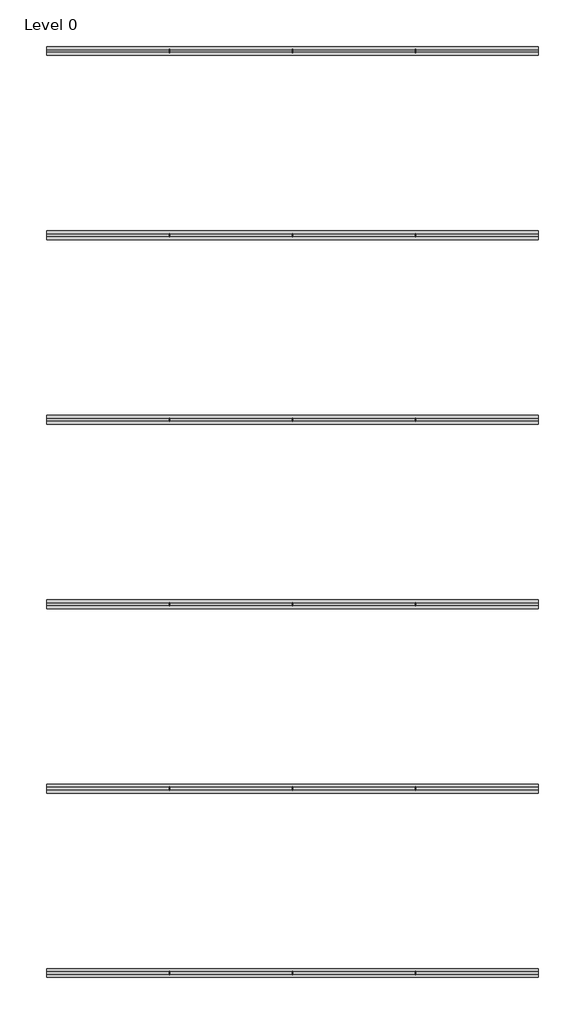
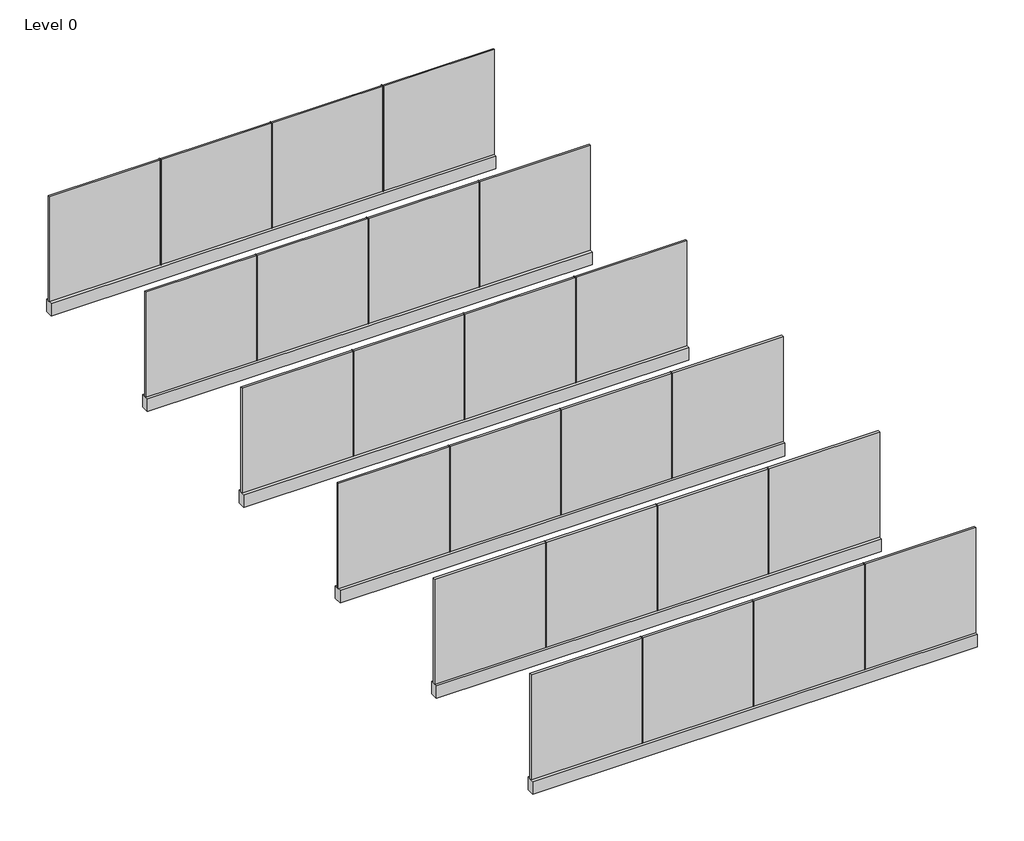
# One storey: 6 railings.
"""IFC4 building model written with IfcOpenShell, lengths in millimetres."""

from ifc_helpers import new_model, si_unit, frame, origin, origin_with_axes, place, context, project, spatial, polyline, outline, extrude, element, save

model = new_model("IFC4")

# Units and contexts
model_context = context("Model", 3, world=origin())
ifc_project = project(units=[si_unit("LENGTHUNIT", "METRE", prefix="MILLI")], contexts=[model_context])

# Site, building, storey
site = spatial("IfcSite", under=ifc_project)
building = spatial("IfcBuilding", under=site)
storey = spatial("IfcBuildingStorey", under=building, Name="Level 0", Elevation=0.0)

# Railings
placement = place(None, origin())
element("IfcRailing", 1, ObjectType="NBS_PureVistaLtd_BalustradeAndGuardingSystem_PosiglazeBaseDrilledBalustrade_12mmglass", at=placement, inside=storey, context=model_context, shape_type="SweptSolid", body=[
    extrude(outline(polyline([(-2000.0, 0.0), (-2000.0, 12.0), (2000.0, 12.0), (2000.0, 0.0), (-2000.0, 0.0)])), frame((0.0, 0.0, 119.5), z_axis=(0.0, 0.0, 1.0), x_axis=(1.0, 0.0, 0.0)), (0.0, 0.0, 1.0), 1000.0),
    extrude(outline(polyline([(-2000.0, -30.0), (-2000.0, 42.0), (2000.0, 42.0), (2000.0, -30.0), (-2000.0, -30.0)])), origin_with_axes(), (0.0, 0.0, 1.0), 119.5),
    extrude(outline(polyline([(998.0, 19.0), (1002.0, 19.0), (1002.0, -7.0), (998.0, -7.0), (998.0, 19.0)])), frame((0.0, 0.0, 119.5), z_axis=(0.0, 0.0, 1.0), x_axis=(1.0, 0.0, 0.0)), (0.0, 0.0, 1.0), 1001.0),
    extrude(outline(polyline([(-2.0, 19.0), (2.0, 19.0), (2.0, -7.0), (-2.0, -7.0), (-2.0, 19.0)])), frame((0.0, 0.0, 119.5), z_axis=(0.0, 0.0, 1.0), x_axis=(1.0, 0.0, 0.0)), (0.0, 0.0, 1.0), 1001.0),
    extrude(outline(polyline([(-1002.0, 19.0), (-998.0, 19.0), (-998.0, -7.0), (-1002.0, -7.0), (-1002.0, 19.0)])), frame((0.0, 0.0, 119.5), z_axis=(0.0, 0.0, 1.0), x_axis=(1.0, 0.0, 0.0)), (0.0, 0.0, 1.0), 1001.0),
])
element("IfcRailing", 2, ObjectType="NBS_PureVistaLtd_BalustradeAndGuardingSystem_PosiglazeBaseDrilledBalustrade_15mmglass", at=placement, inside=storey, context=model_context, shape_type="SweptSolid", body=[
    extrude(outline(polyline([(-2000.0, -1501.5), (-2000.0, -1486.5), (2000.0, -1486.5), (2000.0, -1501.5), (-2000.0, -1501.5)])), frame((0.0, 0.0, 119.5), z_axis=(0.0, 0.0, 1.0), x_axis=(1.0, 0.0, 0.0)), (0.0, 0.0, 1.0), 1000.0),
    extrude(outline(polyline([(-2000.0, -1530.0), (-2000.0, -1458.0), (2000.0, -1458.0), (2000.0, -1530.0), (-2000.0, -1530.0)])), origin_with_axes(), (0.0, 0.0, 1.0), 119.5),
    extrude(outline(polyline([(998.0, -1481.0), (1002.0, -1481.0), (1002.0, -1507.0), (998.0, -1507.0), (998.0, -1481.0)])), frame((0.0, 0.0, 119.5), z_axis=(0.0, 0.0, 1.0), x_axis=(1.0, 0.0, 0.0)), (0.0, 0.0, 1.0), 1001.0),
    extrude(outline(polyline([(-2.0, -1481.0), (2.0, -1481.0), (2.0, -1507.0), (-2.0, -1507.0), (-2.0, -1481.0)])), frame((0.0, 0.0, 119.5), z_axis=(0.0, 0.0, 1.0), x_axis=(1.0, 0.0, 0.0)), (0.0, 0.0, 1.0), 1001.0),
    extrude(outline(polyline([(-1002.0, -1481.0), (-998.0, -1481.0), (-998.0, -1507.0), (-1002.0, -1507.0), (-1002.0, -1481.0)])), frame((0.0, 0.0, 119.5), z_axis=(0.0, 0.0, 1.0), x_axis=(1.0, 0.0, 0.0)), (0.0, 0.0, 1.0), 1001.0),
])
element("IfcRailing", 3, ObjectType="NBS_PureVistaLtd_BalustradeAndGuardingSystem_PosiglazeBaseDrilledBalustrade_17-5mmglass", at=placement, inside=storey, context=model_context, shape_type="SweptSolid", body=[
    extrude(outline(polyline([(-2000.0, -3002.75), (-2000.0, -2985.25), (2000.0, -2985.25), (2000.0, -3002.75), (-2000.0, -3002.75)])), frame((0.0, 0.0, 119.5), z_axis=(0.0, 0.0, 1.0), x_axis=(1.0, 0.0, 0.0)), (0.0, 0.0, 1.0), 1000.0),
    extrude(outline(polyline([(-2000.0, -3030.0), (-2000.0, -2958.0), (2000.0, -2958.0), (2000.0, -3030.0), (-2000.0, -3030.0)])), origin_with_axes(), (0.0, 0.0, 1.0), 119.5),
    extrude(outline(polyline([(998.0, -2981.0), (1002.0, -2981.0), (1002.0, -3007.0), (998.0, -3007.0), (998.0, -2981.0)])), frame((0.0, 0.0, 119.5), z_axis=(0.0, 0.0, 1.0), x_axis=(1.0, 0.0, 0.0)), (0.0, 0.0, 1.0), 1001.0),
    extrude(outline(polyline([(-2.0, -2981.0), (2.0, -2981.0), (2.0, -3007.0), (-2.0, -3007.0), (-2.0, -2981.0)])), frame((0.0, 0.0, 119.5), z_axis=(0.0, 0.0, 1.0), x_axis=(1.0, 0.0, 0.0)), (0.0, 0.0, 1.0), 1001.0),
    extrude(outline(polyline([(-1002.0, -2981.0), (-998.0, -2981.0), (-998.0, -3007.0), (-1002.0, -3007.0), (-1002.0, -2981.0)])), frame((0.0, 0.0, 119.5), z_axis=(0.0, 0.0, 1.0), x_axis=(1.0, 0.0, 0.0)), (0.0, 0.0, 1.0), 1001.0),
])
element("IfcRailing", 4, ObjectType="NBS_PureVistaLtd_BalustradeAndGuardingSystem_PosiglazeBaseDrilledBalustrade_19mmglass", at=placement, inside=storey, context=model_context, shape_type="SweptSolid", body=[
    extrude(outline(polyline([(-2000.0, -4503.5), (-2000.0, -4484.5), (2000.0, -4484.5), (2000.0, -4503.5), (-2000.0, -4503.5)])), frame((0.0, 0.0, 119.5), z_axis=(0.0, 0.0, 1.0), x_axis=(1.0, 0.0, 0.0)), (0.0, 0.0, 1.0), 1000.0),
    extrude(outline(polyline([(-2000.0, -4530.0), (-2000.0, -4458.0), (2000.0, -4458.0), (2000.0, -4530.0), (-2000.0, -4530.0)])), origin_with_axes(), (0.0, 0.0, 1.0), 119.5),
    extrude(outline(polyline([(998.0, -4481.0), (1002.0, -4481.0), (1002.0, -4507.0), (998.0, -4507.0), (998.0, -4481.0)])), frame((0.0, 0.0, 119.5), z_axis=(0.0, 0.0, 1.0), x_axis=(1.0, 0.0, 0.0)), (0.0, 0.0, 1.0), 1001.0),
    extrude(outline(polyline([(-2.0, -4481.0), (2.0, -4481.0), (2.0, -4507.0), (-2.0, -4507.0), (-2.0, -4481.0)])), frame((0.0, 0.0, 119.5), z_axis=(0.0, 0.0, 1.0), x_axis=(1.0, 0.0, 0.0)), (0.0, 0.0, 1.0), 1001.0),
    extrude(outline(polyline([(-1002.0, -4481.0), (-998.0, -4481.0), (-998.0, -4507.0), (-1002.0, -4507.0), (-1002.0, -4481.0)])), frame((0.0, 0.0, 119.5), z_axis=(0.0, 0.0, 1.0), x_axis=(1.0, 0.0, 0.0)), (0.0, 0.0, 1.0), 1001.0),
])
element("IfcRailing", 5, ObjectType="NBS_PureVistaLtd_BalustradeAndGuardingSystem_PosiglazeBaseDrilledBalustrade_21-5mmglass", at=placement, inside=storey, context=model_context, shape_type="SweptSolid", body=[
    extrude(outline(polyline([(-2000.0, -6004.75), (-2000.0, -5983.25), (2000.0, -5983.25), (2000.0, -6004.75), (-2000.0, -6004.75)])), frame((0.0, 0.0, 119.5), z_axis=(0.0, 0.0, 1.0), x_axis=(1.0, 0.0, 0.0)), (0.0, 0.0, 1.0), 1000.0),
    extrude(outline(polyline([(-2000.0, -6030.0), (-2000.0, -5958.0), (2000.0, -5958.0), (2000.0, -6030.0), (-2000.0, -6030.0)])), origin_with_axes(), (0.0, 0.0, 1.0), 119.5),
    extrude(outline(polyline([(998.0, -5981.0), (1002.0, -5981.0), (1002.0, -6007.0), (998.0, -6007.0), (998.0, -5981.0)])), frame((0.0, 0.0, 119.5), z_axis=(0.0, 0.0, 1.0), x_axis=(1.0, 0.0, 0.0)), (0.0, 0.0, 1.0), 1001.0),
    extrude(outline(polyline([(-2.0, -5981.0), (2.0, -5981.0), (2.0, -6007.0), (-2.0, -6007.0), (-2.0, -5981.0)])), frame((0.0, 0.0, 119.5), z_axis=(0.0, 0.0, 1.0), x_axis=(1.0, 0.0, 0.0)), (0.0, 0.0, 1.0), 1001.0),
    extrude(outline(polyline([(-1002.0, -5981.0), (-998.0, -5981.0), (-998.0, -6007.0), (-1002.0, -6007.0), (-1002.0, -5981.0)])), frame((0.0, 0.0, 119.5), z_axis=(0.0, 0.0, 1.0), x_axis=(1.0, 0.0, 0.0)), (0.0, 0.0, 1.0), 1001.0),
])
element("IfcRailing", 6, ObjectType="NBS_PureVistaLtd_BalustradeAndGuardingSystem_PosiglazeBaseDrilledBalustrade_21-5mmSentryglass", at=placement, inside=storey, context=model_context, shape_type="SweptSolid", body=[
    extrude(outline(polyline([(-2000.0, -7504.75), (-2000.0, -7483.25), (2000.0, -7483.25), (2000.0, -7504.75), (-2000.0, -7504.75)])), frame((0.0, 0.0, 119.5), z_axis=(0.0, 0.0, 1.0), x_axis=(1.0, 0.0, 0.0)), (0.0, 0.0, 1.0), 1000.0),
    extrude(outline(polyline([(-2000.0, -7530.0), (-2000.0, -7458.0), (2000.0, -7458.0), (2000.0, -7530.0), (-2000.0, -7530.0)])), origin_with_axes(), (0.0, 0.0, 1.0), 119.5),
    extrude(outline(polyline([(998.0, -7481.0), (1002.0, -7481.0), (1002.0, -7507.0), (998.0, -7507.0), (998.0, -7481.0)])), frame((0.0, 0.0, 119.5), z_axis=(0.0, 0.0, 1.0), x_axis=(1.0, 0.0, 0.0)), (0.0, 0.0, 1.0), 1001.0),
    extrude(outline(polyline([(-2.0, -7481.0), (2.0, -7481.0), (2.0, -7507.0), (-2.0, -7507.0), (-2.0, -7481.0)])), frame((0.0, 0.0, 119.5), z_axis=(0.0, 0.0, 1.0), x_axis=(1.0, 0.0, 0.0)), (0.0, 0.0, 1.0), 1001.0),
    extrude(outline(polyline([(-1002.0, -7481.0), (-998.0, -7481.0), (-998.0, -7507.0), (-1002.0, -7507.0), (-1002.0, -7481.0)])), frame((0.0, 0.0, 119.5), z_axis=(0.0, 0.0, 1.0), x_axis=(1.0, 0.0, 0.0)), (0.0, 0.0, 1.0), 1001.0),
])

save(model, "model.ifc")
